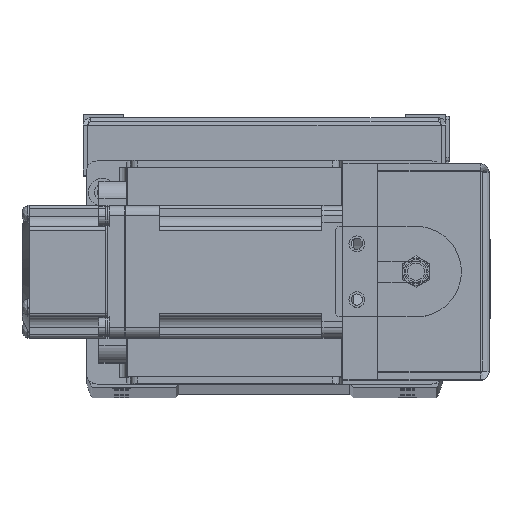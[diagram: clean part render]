
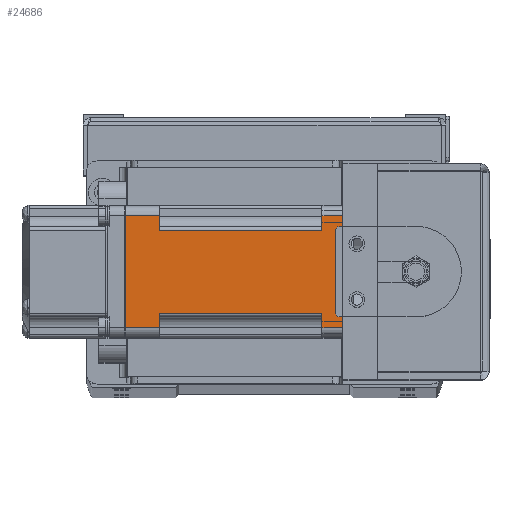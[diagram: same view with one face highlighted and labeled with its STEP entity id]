
A CAD part, top view. The second image highlights one B-rep face of the part: STEP entity #24686.
In plain terms, the highlighted planar face has unit normal (0, 0, 1) as drawn and (0, -1, 0) by its records, which use the part's own axes.
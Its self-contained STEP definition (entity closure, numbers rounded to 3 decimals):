
#1554 = LINE ( 'NONE', #13931, #5661 ) ;
#1662 = DIRECTION ( 'NONE',  ( 0., -1., 0. ) ) ;
#1767 = LINE ( 'NONE', #22431, #18727 ) ;
#2503 = VERTEX_POINT ( 'NONE', #34319 ) ;
#3503 = ORIENTED_EDGE ( 'NONE', *, *, #21808, .T. ) ;
#3564 = ORIENTED_EDGE ( 'NONE', *, *, #25825, .T. ) ;
#4148 = CARTESIAN_POINT ( 'NONE',  ( -6., -19., 11.85 ) ) ;
#4264 = CARTESIAN_POINT ( 'NONE',  ( -62.48, -19., -16. ) ) ;
#4709 = LINE ( 'NONE', #26369, #15093 ) ;
#5593 = LINE ( 'NONE', #8933, #25157 ) ;
#5661 = VECTOR ( 'NONE', #28541, 1000. ) ;
#5896 = LINE ( 'NONE', #23807, #11564 ) ;
#5958 = CARTESIAN_POINT ( 'NONE',  ( -62.48, -19., 16. ) ) ;
#6335 = EDGE_CURVE ( 'NONE', #14570, #2503, #4709, .T. ) ;
#6420 = CARTESIAN_POINT ( 'NONE',  ( -6., -19., 16. ) ) ;
#6480 = EDGE_CURVE ( 'NONE', #33200, #29783, #12743, .T. ) ;
#6555 = ORIENTED_EDGE ( 'NONE', *, *, #20855, .T. ) ;
#7010 = EDGE_CURVE ( 'NONE', #2503, #8927, #5593, .T. ) ;
#8033 = ORIENTED_EDGE ( 'NONE', *, *, #6480, .T. ) ;
#8044 = CARTESIAN_POINT ( 'NONE',  ( -6., -19., -16. ) ) ;
#8927 = VERTEX_POINT ( 'NONE', #17869 ) ;
#8933 = CARTESIAN_POINT ( 'NONE',  ( -52.5, -19., -16. ) ) ;
#9632 = VECTOR ( 'NONE', #22363, 1000. ) ;
#11564 = VECTOR ( 'NONE', #17899, 1000. ) ;
#12678 = LINE ( 'NONE', #6420, #14972 ) ;
#12743 = LINE ( 'NONE', #24786, #30698 ) ;
#12939 = ORIENTED_EDGE ( 'NONE', *, *, #25491, .T. ) ;
#13309 = DIRECTION ( 'NONE',  ( 0., 0., 1. ) ) ;
#13367 = CARTESIAN_POINT ( 'NONE',  ( -52.5, -19., 16. ) ) ;
#13931 = CARTESIAN_POINT ( 'NONE',  ( -6., -19., 16. ) ) ;
#14297 = VERTEX_POINT ( 'NONE', #21133 ) ;
#14570 = VERTEX_POINT ( 'NONE', #31756 ) ;
#14972 = VECTOR ( 'NONE', #33769, 1000. ) ;
#14976 = CARTESIAN_POINT ( 'NONE',  ( 0., -19., -16. ) ) ;
#15093 = VECTOR ( 'NONE', #22614, 1000. ) ;
#16101 = CARTESIAN_POINT ( 'NONE',  ( 0., -19., -16. ) ) ;
#16342 = EDGE_CURVE ( 'NONE', #14297, #33200, #24842, .T. ) ;
#16698 = ORIENTED_EDGE ( 'NONE', *, *, #32339, .T. ) ;
#16968 = ORIENTED_EDGE ( 'NONE', *, *, #38639, .T. ) ;
#17123 = LINE ( 'NONE', #8044, #21906 ) ;
#17219 = VERTEX_POINT ( 'NONE', #5958 ) ;
#17463 = CARTESIAN_POINT ( 'NONE',  ( -6., -19., -11.85 ) ) ;
#17550 = CARTESIAN_POINT ( 'NONE',  ( -52.5, -19., 11.85 ) ) ;
#17869 = CARTESIAN_POINT ( 'NONE',  ( -52.5, -19., -11.85 ) ) ;
#17899 = DIRECTION ( 'NONE',  ( 0., 0., -1. ) ) ;
#17942 = VERTEX_POINT ( 'NONE', #17463 ) ;
#18727 = VECTOR ( 'NONE', #22838, 1000. ) ;
#19264 = DIRECTION ( 'NONE',  ( 1., 0., 0. ) ) ;
#19279 = DIRECTION ( 'NONE',  ( -1., 0., 0. ) ) ;
#20543 = CARTESIAN_POINT ( 'NONE',  ( 0., -19., 16. ) ) ;
#20763 = VECTOR ( 'NONE', #34258, 1000. ) ;
#20855 = EDGE_CURVE ( 'NONE', #17219, #14570, #34590, .T. ) ;
#21133 = CARTESIAN_POINT ( 'NONE',  ( -6., -19., 11.85 ) ) ;
#21808 = EDGE_CURVE ( 'NONE', #17942, #37437, #5896, .T. ) ;
#21906 = VECTOR ( 'NONE', #19264, 1000. ) ;
#22158 = DIRECTION ( 'NONE',  ( 0., 0., -1. ) ) ;
#22238 = CARTESIAN_POINT ( 'NONE',  ( -6., -19., -16. ) ) ;
#22363 = DIRECTION ( 'NONE',  ( 0., 0., -1. ) ) ;
#22431 = CARTESIAN_POINT ( 'NONE',  ( -6., -19., -11.85 ) ) ;
#22614 = DIRECTION ( 'NONE',  ( 1., 0., 0. ) ) ;
#22792 = CARTESIAN_POINT ( 'NONE',  ( -6., -19., 16. ) ) ;
#22838 = DIRECTION ( 'NONE',  ( 1., 0., 0. ) ) ;
#23807 = CARTESIAN_POINT ( 'NONE',  ( -6., -19., -16. ) ) ;
#24360 = AXIS2_PLACEMENT_3D ( 'NONE', #31222, #1662, #22158 ) ;
#24686 = ADVANCED_FACE ( 'NONE', ( #24756 ), #33796, .T. ) ;
#24756 = FACE_OUTER_BOUND ( 'NONE', #29172, .T. ) ;
#24786 = CARTESIAN_POINT ( 'NONE',  ( -52.5, -19., -16. ) ) ;
#24842 = LINE ( 'NONE', #4148, #34094 ) ;
#25157 = VECTOR ( 'NONE', #26865, 1000. ) ;
#25211 = LINE ( 'NONE', #22238, #20763 ) ;
#25491 = EDGE_CURVE ( 'NONE', #8927, #17942, #1767, .T. ) ;
#25825 = EDGE_CURVE ( 'NONE', #29783, #17219, #12678, .T. ) ;
#25893 = ORIENTED_EDGE ( 'NONE', *, *, #16342, .T. ) ;
#26369 = CARTESIAN_POINT ( 'NONE',  ( -6., -19., -16. ) ) ;
#26865 = DIRECTION ( 'NONE',  ( 0., 0., 1. ) ) ;
#27329 = ORIENTED_EDGE ( 'NONE', *, *, #37505, .T. ) ;
#27383 = CARTESIAN_POINT ( 'NONE',  ( -6., -19., -16. ) ) ;
#27876 = EDGE_CURVE ( 'NONE', #37913, #32612, #1554, .T. ) ;
#27940 = LINE ( 'NONE', #16101, #33584 ) ;
#28541 = DIRECTION ( 'NONE',  ( -1., 0., 0. ) ) ;
#29172 = EDGE_LOOP ( 'NONE', ( #8033, #3564, #6555, #36172, #29735, #12939, #3503, #27329, #16698, #32864, #16968, #25893 ) ) ;
#29639 = VERTEX_POINT ( 'NONE', #14976 ) ;
#29735 = ORIENTED_EDGE ( 'NONE', *, *, #7010, .T. ) ;
#29783 = VERTEX_POINT ( 'NONE', #13367 ) ;
#30698 = VECTOR ( 'NONE', #13309, 1000. ) ;
#31222 = CARTESIAN_POINT ( 'NONE',  ( -6., -19., -16. ) ) ;
#31756 = CARTESIAN_POINT ( 'NONE',  ( -62.48, -19., -16. ) ) ;
#32339 = EDGE_CURVE ( 'NONE', #29639, #37913, #27940, .T. ) ;
#32612 = VERTEX_POINT ( 'NONE', #22792 ) ;
#32864 = ORIENTED_EDGE ( 'NONE', *, *, #27876, .T. ) ;
#33200 = VERTEX_POINT ( 'NONE', #17550 ) ;
#33584 = VECTOR ( 'NONE', #34414, 1000. ) ;
#33769 = DIRECTION ( 'NONE',  ( -1., 0., 0. ) ) ;
#33796 = PLANE ( 'NONE',  #24360 ) ;
#34094 = VECTOR ( 'NONE', #19279, 1000. ) ;
#34258 = DIRECTION ( 'NONE',  ( 0., 0., -1. ) ) ;
#34319 = CARTESIAN_POINT ( 'NONE',  ( -52.5, -19., -16. ) ) ;
#34414 = DIRECTION ( 'NONE',  ( 0., 0., 1. ) ) ;
#34590 = LINE ( 'NONE', #4264, #9632 ) ;
#36172 = ORIENTED_EDGE ( 'NONE', *, *, #6335, .T. ) ;
#37437 = VERTEX_POINT ( 'NONE', #27383 ) ;
#37505 = EDGE_CURVE ( 'NONE', #37437, #29639, #17123, .T. ) ;
#37913 = VERTEX_POINT ( 'NONE', #20543 ) ;
#38639 = EDGE_CURVE ( 'NONE', #32612, #14297, #25211, .T. ) ;
